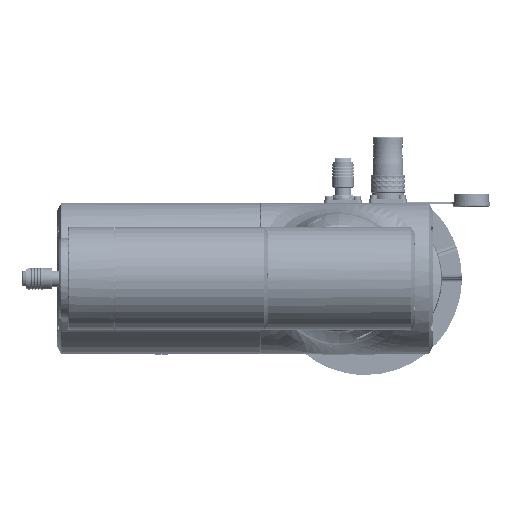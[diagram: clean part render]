
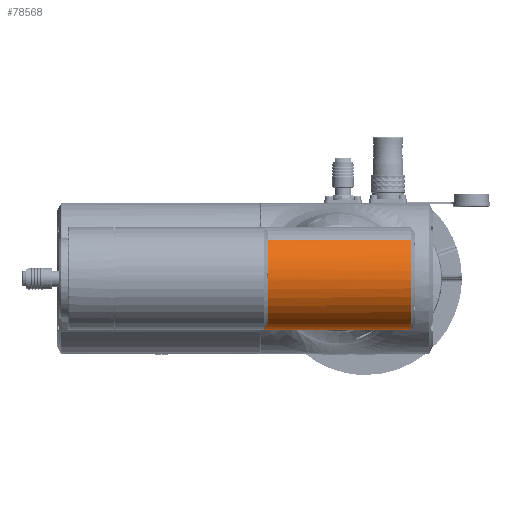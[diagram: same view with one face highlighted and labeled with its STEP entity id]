
A CAD part, front view. The second image highlights one B-rep face of the part: STEP entity #78568.
In plain terms, the highlighted cylindrical face has radius 40 mm (diameter 80 mm), a partial arc.
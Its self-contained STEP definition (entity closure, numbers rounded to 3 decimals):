
#3582 = DIRECTION ( 'NONE',  ( 1., 0., 0. ) ) ;
#9312 = ORIENTED_EDGE ( 'NONE', *, *, #217439, .F. ) ;
#11846 = CARTESIAN_POINT ( 'NONE',  ( 46.876, -0.804, 208.25 ) ) ;
#12699 = DIRECTION ( 'NONE',  ( -1., 0., 0. ) ) ;
#19235 = VERTEX_POINT ( 'NONE', #50066 ) ;
#21799 = DIRECTION ( 'NONE',  ( -1., 0., 0. ) ) ;
#21934 = ORIENTED_EDGE ( 'NONE', *, *, #301397, .T. ) ;
#22370 = CARTESIAN_POINT ( 'NONE',  ( -18.55, 39.181, 207.031 ) ) ;
#22687 = VERTEX_POINT ( 'NONE', #237035 ) ;
#27989 = DIRECTION ( 'NONE',  ( 0., 0.755, -0.656 ) ) ;
#29956 = CIRCLE ( 'NONE', #246544, 40. ) ;
#32958 = VECTOR ( 'NONE', #93089, 1000. ) ;
#39165 = DIRECTION ( 'NONE',  ( 0., -1., 0. ) ) ;
#48477 = CARTESIAN_POINT ( 'NONE',  ( -53.554, 29.384, 182.008 ) ) ;
#49636 = CARTESIAN_POINT ( 'NONE',  ( -7.698, 39.181, 207.031 ) ) ;
#50066 = CARTESIAN_POINT ( 'NONE',  ( 46.876, 0.696, 248.222 ) ) ;
#54018 = DIRECTION ( 'NONE',  ( -1., 0., 0. ) ) ;
#55701 = LINE ( 'NONE', #346209, #263944 ) ;
#58030 = CYLINDRICAL_SURFACE ( 'NONE', #288210, 40. ) ;
#59861 = ORIENTED_EDGE ( 'NONE', *, *, #129115, .T. ) ;
#60659 = VERTEX_POINT ( 'NONE', #171620 ) ;
#68793 = EDGE_CURVE ( 'NONE', #186667, #22687, #162126, .T. ) ;
#77003 = CARTESIAN_POINT ( 'NONE',  ( 2.838, 39.031, 204.439 ) ) ;
#78568 = ADVANCED_FACE ( 'NONE', ( #83662 ), #58030, .T. ) ;
#81382 = CARTESIAN_POINT ( 'NONE',  ( -62.124, -0.804, 208.25 ) ) ;
#83662 = FACE_OUTER_BOUND ( 'NONE', #284718, .T. ) ;
#93089 = DIRECTION ( 'NONE',  ( 1., 0., 0. ) ) ;
#98871 = VERTEX_POINT ( 'NONE', #234273 ) ;
#101113 = CARTESIAN_POINT ( 'NONE',  ( 43.876, -0.804, 208.25 ) ) ;
#103109 = CIRCLE ( 'NONE', #147036, 40. ) ;
#103162 = CARTESIAN_POINT ( 'NONE',  ( -49.828, 34.049, 188.441 ) ) ;
#104325 = CARTESIAN_POINT ( 'NONE',  ( 12.429, 38.252, 199.421 ) ) ;
#112223 = AXIS2_PLACEMENT_3D ( 'NONE', #166113, #3582, #193449 ) ;
#121200 = CARTESIAN_POINT ( 'NONE',  ( -68.841, 29.384, 182.008 ) ) ;
#128338 = DIRECTION ( 'NONE',  ( 0., -1., 0. ) ) ;
#129115 = EDGE_CURVE ( 'NONE', #232198, #60659, #305526, .T. ) ;
#130051 = DIRECTION ( 'NONE',  ( -1., 0., 0. ) ) ;
#130398 = CARTESIAN_POINT ( 'NONE',  ( -42.911, 37.372, 196.121 ) ) ;
#131558 = CARTESIAN_POINT ( 'NONE',  ( 20.406, 36.007, 192.411 ) ) ;
#140304 = CARTESIAN_POINT ( 'NONE',  ( -68.841, -30.992, 234.492 ) ) ;
#147036 = AXIS2_PLACEMENT_3D ( 'NONE', #292761, #130051, #319952 ) ;
#147686 = CARTESIAN_POINT ( 'NONE',  ( -13.124, -2.304, 248.222 ) ) ;
#156317 = DIRECTION ( 'NONE',  ( -1., 0., 0. ) ) ;
#157664 = CARTESIAN_POINT ( 'NONE',  ( -34.04, 38.764, 202.217 ) ) ;
#158826 = CARTESIAN_POINT ( 'NONE',  ( 25.81, 31.77, 184.916 ) ) ;
#161074 = CARTESIAN_POINT ( 'NONE',  ( 46.876, -30.992, 234.492 ) ) ;
#162126 = B_SPLINE_CURVE_WITH_KNOTS ( 'NONE', 3,
 ( #48477, #291928, #265796, #103162, #293095, #130398, #320316, #157664, #347594, #184959, #22370, #212257, #49636, #239556, #77003, #266948, #104325, #294237, #131558, #321472, #158826, #348744, #186125 ),
 .UNSPECIFIED., .F., .F.,
 ( 4, 1, 1, 1, 1, 1, 1, 1, 1, 1, 1, 1, 1, 1, 1, 1, 1, 1, 1, 1, 4 ),
 ( 0.6, 0.609, 0.625, 0.641, 0.656, 0.672, 0.688, 0.703, 0.719, 0.734, 0.75, 0.766, 0.781, 0.797, 0.813, 0.828, 0.844, 0.859, 0.875, 0.891, 0.9 ),
 .UNSPECIFIED. ) ;
#166113 = CARTESIAN_POINT ( 'NONE',  ( -68.841, -0.804, 208.25 ) ) ;
#167015 = LINE ( 'NONE', #175267, #311405 ) ;
#171620 = CARTESIAN_POINT ( 'NONE',  ( 46.876, -2.304, 248.222 ) ) ;
#174132 = ORIENTED_EDGE ( 'NONE', *, *, #186315, .T. ) ;
#175267 = CARTESIAN_POINT ( 'NONE',  ( -13.124, 0.696, 248.222 ) ) ;
#177301 = LINE ( 'NONE', #147686, #32958 ) ;
#179200 = ORIENTED_EDGE ( 'NONE', *, *, #219306, .F. ) ;
#180644 = VERTEX_POINT ( 'NONE', #279531 ) ;
#184959 = CARTESIAN_POINT ( 'NONE',  ( -23.897, 39.141, 206.055 ) ) ;
#186125 = CARTESIAN_POINT ( 'NONE',  ( 27.307, 29.384, 182.008 ) ) ;
#186315 = EDGE_CURVE ( 'NONE', #305216, #343205, #346371, .T. ) ;
#186667 = VERTEX_POINT ( 'NONE', #324848 ) ;
#193449 = DIRECTION ( 'NONE',  ( 0., 0.755, -0.656 ) ) ;
#194167 = EDGE_CURVE ( 'NONE', #180644, #60659, #177301, .T. ) ;
#198586 = LINE ( 'NONE', #204098, #334541 ) ;
#201737 = DIRECTION ( 'NONE',  ( -1., 0., 0. ) ) ;
#203422 = ORIENTED_EDGE ( 'NONE', *, *, #68793, .F. ) ;
#204098 = CARTESIAN_POINT ( 'NONE',  ( -62.124, 29.384, 182.008 ) ) ;
#206187 = AXIS2_PLACEMENT_3D ( 'NONE', #11846, #201737, #39165 ) ;
#212257 = CARTESIAN_POINT ( 'NONE',  ( -13.124, 39.184, 207.36 ) ) ;
#217439 = EDGE_CURVE ( 'NONE', #328982, #180644, #29956, .T. ) ;
#219306 = EDGE_CURVE ( 'NONE', #232198, #343205, #55701, .T. ) ;
#231367 = ORIENTED_EDGE ( 'NONE', *, *, #320523, .T. ) ;
#232198 = VERTEX_POINT ( 'NONE', #161074 ) ;
#232572 = DIRECTION ( 'NONE',  ( -1., 0., 0. ) ) ;
#234273 = CARTESIAN_POINT ( 'NONE',  ( 46.876, 29.384, 182.008 ) ) ;
#237035 = CARTESIAN_POINT ( 'NONE',  ( 27.307, 29.384, 182.008 ) ) ;
#239556 = CARTESIAN_POINT ( 'NONE',  ( -2.351, 39.141, 206.055 ) ) ;
#246544 = AXIS2_PLACEMENT_3D ( 'NONE', #101113, #291025, #128338 ) ;
#261670 = EDGE_CURVE ( 'NONE', #19235, #328982, #167015, .T. ) ;
#263944 = VECTOR ( 'NONE', #156317, 1000. ) ;
#265796 = CARTESIAN_POINT ( 'NONE',  ( -52.058, 31.77, 184.916 ) ) ;
#266948 = CARTESIAN_POINT ( 'NONE',  ( 7.792, 38.764, 202.217 ) ) ;
#279531 = CARTESIAN_POINT ( 'NONE',  ( 43.876, -2.304, 248.222 ) ) ;
#279792 = ORIENTED_EDGE ( 'NONE', *, *, #194167, .F. ) ;
#284718 = EDGE_LOOP ( 'NONE', ( #179200, #59861, #279792, #9312, #290733, #21934, #334571, #203422, #231367, #174132 ) ) ;
#288210 = AXIS2_PLACEMENT_3D ( 'NONE', #81382, #54018, #27989 ) ;
#290733 = ORIENTED_EDGE ( 'NONE', *, *, #261670, .F. ) ;
#291025 = DIRECTION ( 'NONE',  ( 1., 0., 0. ) ) ;
#291928 = CARTESIAN_POINT ( 'NONE',  ( -53.168, 30.072, 182.799 ) ) ;
#292510 = CARTESIAN_POINT ( 'NONE',  ( -62.124, 29.384, 182.008 ) ) ;
#292761 = CARTESIAN_POINT ( 'NONE',  ( 46.876, -0.804, 208.25 ) ) ;
#293095 = CARTESIAN_POINT ( 'NONE',  ( -46.654, 36.007, 192.411 ) ) ;
#294237 = CARTESIAN_POINT ( 'NONE',  ( 16.663, 37.372, 196.121 ) ) ;
#301397 = EDGE_CURVE ( 'NONE', #19235, #98871, #103109, .T. ) ;
#304901 = VECTOR ( 'NONE', #21799, 1000. ) ;
#305216 = VERTEX_POINT ( 'NONE', #121200 ) ;
#305526 = CIRCLE ( 'NONE', #206187, 40. ) ;
#309168 = EDGE_CURVE ( 'NONE', #98871, #22687, #321919, .T. ) ;
#311405 = VECTOR ( 'NONE', #12699, 1000. ) ;
#319952 = DIRECTION ( 'NONE',  ( 0., -1., 0. ) ) ;
#320316 = CARTESIAN_POINT ( 'NONE',  ( -38.677, 38.252, 199.421 ) ) ;
#320523 = EDGE_CURVE ( 'NONE', #186667, #305216, #198586, .T. ) ;
#321472 = CARTESIAN_POINT ( 'NONE',  ( 23.58, 34.049, 188.441 ) ) ;
#321919 = LINE ( 'NONE', #292510, #304901 ) ;
#324848 = CARTESIAN_POINT ( 'NONE',  ( -53.554, 29.384, 182.008 ) ) ;
#328981 = CARTESIAN_POINT ( 'NONE',  ( 43.876, 0.696, 248.222 ) ) ;
#328982 = VERTEX_POINT ( 'NONE', #328981 ) ;
#334541 = VECTOR ( 'NONE', #232572, 1000. ) ;
#334571 = ORIENTED_EDGE ( 'NONE', *, *, #309168, .T. ) ;
#343205 = VERTEX_POINT ( 'NONE', #140304 ) ;
#346209 = CARTESIAN_POINT ( 'NONE',  ( -62.124, -30.992, 234.492 ) ) ;
#346371 = CIRCLE ( 'NONE', #112223, 40. ) ;
#347594 = CARTESIAN_POINT ( 'NONE',  ( -29.086, 39.031, 204.439 ) ) ;
#348744 = CARTESIAN_POINT ( 'NONE',  ( 26.92, 30.072, 182.799 ) ) ;
